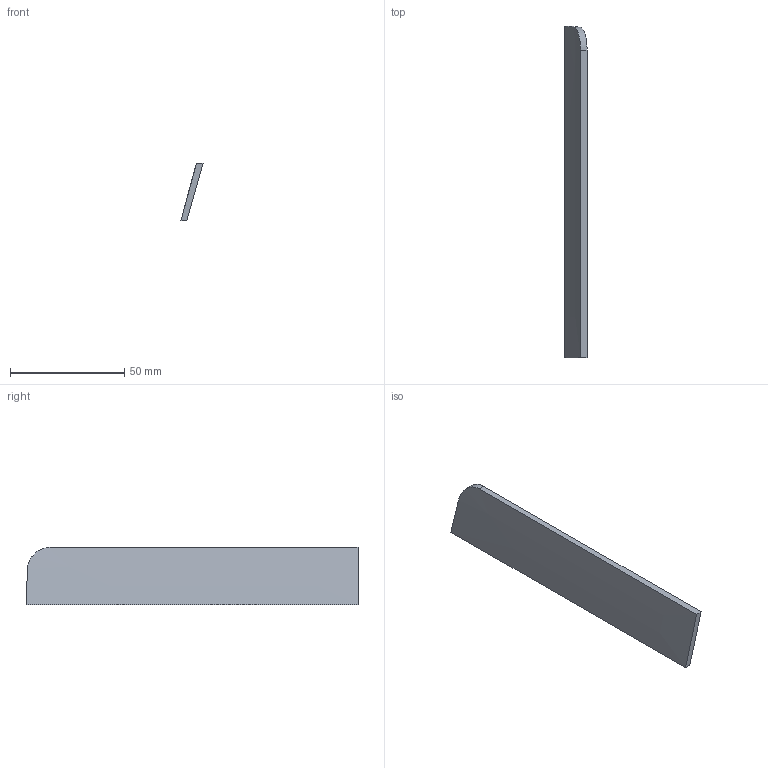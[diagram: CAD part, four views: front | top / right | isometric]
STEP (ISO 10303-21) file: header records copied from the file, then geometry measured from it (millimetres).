
FILE_DESCRIPTION(('Open CASCADE Model'),'2;1');
FILE_NAME('Open CASCADE Shape Model','2026-11-03T04:29:37',('Author'),( 'Open CASCADE'),'Open CASCADE STEP processor 7.8','Open CASCADE 7.8' ,'Unknown');
FILE_SCHEMA(('AUTOMOTIVE_DESIGN { 1 0 10303 214 1 1 1 1 }'));
Length unit declared in the file: millimetre
Products named in the file (1): Open CASCADE STEP translator 7.8 51
Bounding box: 9.67 x 145.03 x 25 mm (x, y, z)
Volume: 9597.2 mm3; surface area: 8361.3 mm2
Topology: 1 solids, 1 shells, 7 faces, 15 edges, 10 vertices
Faces by surface type: plane 4, bspline 2, cylinder 1
Entity records: 625 total; most frequent: CARTESIAN_POINT 368, B_SPLINE_CURVE_WITH_KNOTS 34, ORIENTED_EDGE 30, PCURVE 30, DEFINITIONAL_REPRESENTATION 30, DIRECTION 23, EDGE_CURVE 15, SURFACE_CURVE 15
